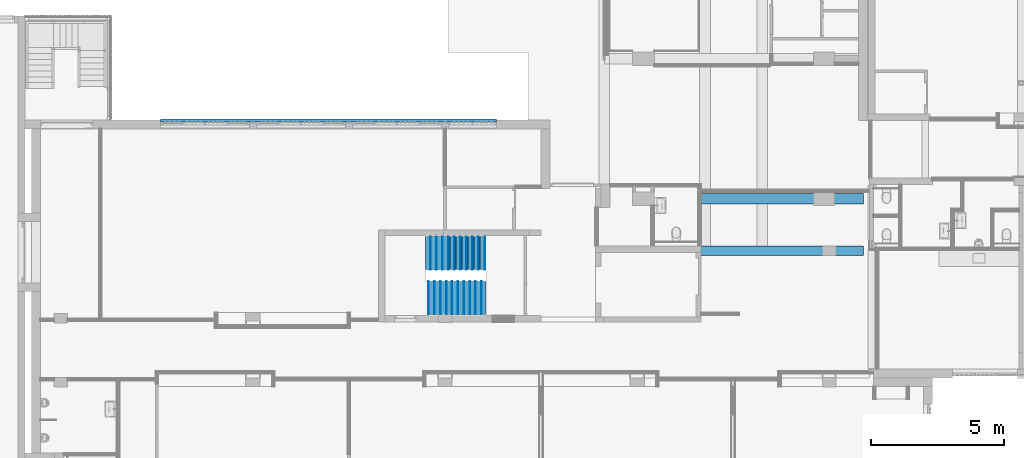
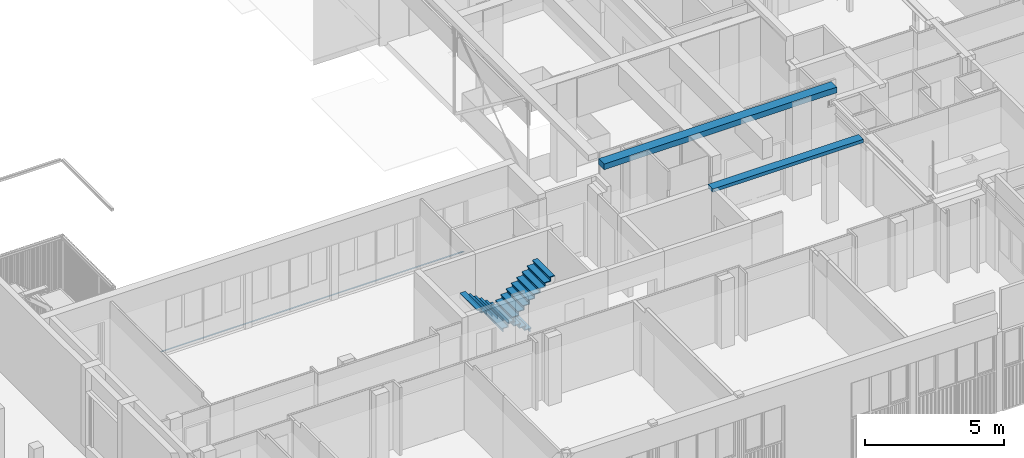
# One storey, part 21 of 117: 40 members, 3 beams, 2 elements without a shape of their own.
"""IFC2X3 building model written with IfcOpenShell, lengths in millimetres."""

from ifc_helpers import new_model, entity, si_unit, converted_unit, derived_unit, money_unit, direction, frame, origin_with_axes, place, context, subcontext, project, spatial, faceted_brep, material, type_object, element, aggregate, save


model = new_model("IFC2X3")

# Units and contexts
model_context = context("Model", 3, precision=0.01, world=origin_with_axes(), true_north=direction((0.0, 1.0)))
body_context = subcontext(model_context, "Body", "Model", "MODEL_VIEW")
ifc_project = project(units=[si_unit("LENGTHUNIT", "METRE", prefix="MILLI"), si_unit("AREAUNIT", "SQUARE_METRE"), si_unit("VOLUMEUNIT", "CUBIC_METRE"), converted_unit("PLANEANGLEUNIT", "DEGREE", entity("IfcPlaneAngleMeasure", 0.0174532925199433), si_unit("PLANEANGLEUNIT", "RADIAN"), dimensions=[0, 0, 0, 0, 0, 0, 0]), money_unit("EUR"), converted_unit("TIMEUNIT", "Year", entity("IfcTimeMeasure", 31557600.0), si_unit("TIMEUNIT", "SECOND"), dimensions=[0, 0, 1, 0, 0, 0, 0]), si_unit("MASSUNIT", "GRAM", prefix="KILO"), si_unit("THERMODYNAMICTEMPERATUREUNIT", "DEGREE_CELSIUS"), si_unit("LUMINOUSINTENSITYUNIT", "LUMEN"), si_unit("ENERGYUNIT", "JOULE", prefix="MEGA"), derived_unit("THERMALCONDUCTANCEUNIT", [(si_unit("POWERUNIT", "WATT"), 1), (si_unit("LENGTHUNIT", "METRE"), -1), (si_unit("THERMODYNAMICTEMPERATUREUNIT", "KELVIN"), -1)]), derived_unit("SPECIFICHEATCAPACITYUNIT", [(si_unit("ENERGYUNIT", "JOULE"), 1), (si_unit("MASSUNIT", "GRAM", prefix="KILO"), -1), (si_unit("THERMODYNAMICTEMPERATUREUNIT", "KELVIN"), -1)]), derived_unit("MASSDENSITYUNIT", [(si_unit("MASSUNIT", "GRAM", prefix="KILO"), 1), (si_unit("VOLUMEUNIT", "CUBIC_METRE"), -1)])], contexts=[model_context])

# Site, building, storey
site_placement = place(None, origin_with_axes())
site = spatial("IfcSite", under=ifc_project, at=site_placement, Name="Site", CompositionType="ELEMENT")
building_placement = place(site_placement, origin_with_axes())
building = spatial("IfcBuilding", under=site, at=building_placement, Name="Naam gebouw", CompositionType="ELEMENT")
storey_placement = place(building_placement, frame((0.0, 0.0, 4150.0), z_axis=(0.0, 0.0, 1.0), x_axis=(1.0, 0.0, 0.0)))
storey = spatial("IfcBuildingStorey", under=building, at=storey_placement, Name="1e verdieping N", CompositionType="ELEMENT", Elevation=4150.0)

# Beam
ifc_material_1 = material(Name="Metaal - Aluminium")
beam_type_1 = type_object("IfcBeamType", Name="Lekdorpel 107 x 49", PredefinedType="BEAM")
beam_1_placement = place(storey_placement, frame((16337.49963815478, 20325.90462384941, 0.0), z_axis=(0.0, 0.0, 1.0), x_axis=(-1.058470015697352e-07, 0.9999999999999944, 0.0)))
element("IfcBeam", 1, at=beam_1_placement, inside=storey, type_object=beam_type_1, material=ifc_material_1, Name="_Balk-x", ObjectType="BEAM", context=body_context, shape_type="Brep", body=[
    faceted_brep([(27.99999999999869, 0.0, -1.678199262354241), (27.99999999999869, 12599.99999993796, -1.678199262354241), (27.99999999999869, 12599.99999993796, -16.5358983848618), (27.99999999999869, 0.0, -16.5358983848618), (-76.99999999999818, 0.0, 16.83613371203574), (-76.99999999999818, 12599.99999993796, 16.83613371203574), (-76.99999999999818, 12599.99999993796, 28.51433297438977), (-74.99999999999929, 12599.99999993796, 28.51433297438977), (-74.99999999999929, 12599.99999993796, 18.51433297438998), (30.00000000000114, 12599.99999993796, 0.0), (30.00000000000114, 12599.99999993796, -19.99999999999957), (19.99999999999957, 12599.99999993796, -14.22649730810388), (19.99999999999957, 12599.99999993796, -11.91709623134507), (19.99999999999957, 0.0, -11.91709623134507), (19.99999999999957, 0.0, -14.22649730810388), (30.00000000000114, 0.0, -19.99999999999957), (30.00000000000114, 0.0, 0.0), (-74.99999999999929, 0.0, 18.51433297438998), (-74.99999999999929, 0.0, 28.51433297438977), (-76.99999999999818, 0.0, 28.51433297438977)], [[[0, 1, 2, 3]], [[4, 5, 1, 0]], [[2, 1, 5, 6, 7, 8, 9, 10, 11, 12]], [[3, 2, 12, 13]], [[4, 0, 3, 13, 14, 15, 16, 17, 18, 19]], [[19, 6, 5, 4]], [[18, 7, 6, 19]], [[17, 8, 7, 18]], [[16, 9, 8, 17]], [[15, 10, 9, 16]], [[14, 11, 10, 15]], [[13, 12, 11, 14]]]),
])

# Stair, members
stair_1_placement = place(storey_placement, frame((15940.50051848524, 14714.92025998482, 0.0), z_axis=(0.0, 0.0, 1.0), x_axis=(1.0, 0.0, 0.0)))
stair_1 = element("IfcStair", 2, at=stair_1_placement, inside=storey, Name="_Trap-x", ShapeType="NOTDEFINED")
ifc_material_2 = material(Name="Hout - Vloer")
member_type_1 = type_object("IfcMemberType", Name="IfcMember", PredefinedType="USERDEFINED")
member_1_placement = place(stair_1_placement, frame((0.0, 619.9999999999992, 174.9999999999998), z_axis=(0.0, 0.0, 1.0), x_axis=(0.0, 1.0, 0.0)))
member_1 = element("IfcMember", 3, at=member_1_placement, type_object=member_type_1, material=ifc_material_2, Name="_Traptrede-x", context=body_context, shape_type="Brep", body=[
    faceted_brep([(-620.0, 0.0, -38.0), (620.0, 0.0, -38.0), (620.0, 0.0, 0.0), (-620.0, 0.0, 0.0), (-620.0, 285.0000000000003, -38.0), (620.0, 285.000000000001, -38.0), (620.0, 285.000000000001, 0.0), (-620.0, 285.0000000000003, 0.0)], [[[0, 1, 2, 3]], [[0, 4, 5, 1]], [[1, 5, 6, 2]], [[3, 2, 6, 7]], [[4, 0, 3, 7]], [[5, 4, 7, 6]]]),
])
member_2_placement = place(stair_1_placement, frame((-227.0000000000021, 620.000000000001, 349.9999999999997), z_axis=(0.0, 0.0, 1.0), x_axis=(0.0, 1.0, 0.0)))
member_2 = element("IfcMember", 4, at=member_2_placement, type_object=member_type_1, material=ifc_material_2, Name="_Traptrede-x", context=body_context, shape_type="Brep", body=[
    faceted_brep([(-620.0, 0.0, -38.0), (620.0, 0.0, -38.0), (620.0, 0.0, 0.0), (-620.0, 0.0, 0.0), (-620.0, 285.0000000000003, -38.0), (620.0, 285.000000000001, -38.0), (620.0, 285.000000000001, 0.0), (-620.0, 285.0000000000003, 0.0)], [[[0, 1, 2, 3]], [[0, 4, 5, 1]], [[1, 5, 6, 2]], [[3, 2, 6, 7]], [[4, 0, 3, 7]], [[5, 4, 7, 6]]]),
])
member_3_placement = place(stair_1_placement, frame((-454.0000000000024, 620.000000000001, 525.0000000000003), z_axis=(0.0, 0.0, 1.0), x_axis=(0.0, 1.0, 0.0)))
member_3 = element("IfcMember", 5, at=member_3_placement, type_object=member_type_1, material=ifc_material_2, Name="_Traptrede-x", context=body_context, shape_type="Brep", body=[
    faceted_brep([(-620.0, 0.0, -38.0), (620.0, 0.0, -38.0), (620.0, 0.0, 0.0), (-620.0, 0.0, 0.0), (-620.0, 285.0000000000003, -38.0), (620.0, 285.000000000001, -38.0), (620.0, 285.000000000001, 0.0), (-620.0, 285.0000000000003, 0.0)], [[[0, 1, 2, 3]], [[0, 4, 5, 1]], [[1, 5, 6, 2]], [[3, 2, 6, 7]], [[4, 0, 3, 7]], [[5, 4, 7, 6]]]),
])
member_4_placement = place(stair_1_placement, frame((-681.0000000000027, 620.000000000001, 700.0000000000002), z_axis=(0.0, 0.0, 1.0), x_axis=(0.0, 1.0, 0.0)))
member_4 = element("IfcMember", 6, at=member_4_placement, type_object=member_type_1, material=ifc_material_2, Name="_Traptrede-x", context=body_context, shape_type="Brep", body=[
    faceted_brep([(-620.0, 0.0, -38.0), (620.0, 0.0, -38.0), (620.0, 0.0, 0.0), (-620.0, 0.0, 0.0), (-620.0, 285.0000000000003, -38.0), (620.0, 285.000000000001, -38.0), (620.0, 285.000000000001, 0.0), (-620.0, 285.0000000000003, 0.0)], [[[0, 1, 2, 3]], [[0, 4, 5, 1]], [[1, 5, 6, 2]], [[3, 2, 6, 7]], [[4, 0, 3, 7]], [[5, 4, 7, 6]]]),
])
member_5_placement = place(stair_1_placement, frame((-908.0000000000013, 620.000000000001, 875.0), z_axis=(0.0, 0.0, 1.0), x_axis=(0.0, 1.0, 0.0)))
member_5 = element("IfcMember", 7, at=member_5_placement, type_object=member_type_1, material=ifc_material_2, Name="_Traptrede-x", context=body_context, shape_type="Brep", body=[
    faceted_brep([(-620.0, 0.0, -38.0), (620.0, 0.0, -38.0), (620.0, 0.0, 0.0), (-620.0, 0.0, 0.0), (-620.0, 285.0000000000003, -38.0), (620.0, 285.000000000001, -38.0), (620.0, 285.000000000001, 0.0), (-620.0, 285.0000000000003, 0.0)], [[[0, 1, 2, 3]], [[0, 4, 5, 1]], [[1, 5, 6, 2]], [[3, 2, 6, 7]], [[4, 0, 3, 7]], [[5, 4, 7, 6]]]),
])
member_6_placement = place(stair_1_placement, frame((-1135.000000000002, 620.000000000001, 1050.0), z_axis=(0.0, 0.0, 1.0), x_axis=(0.0, 1.0, 0.0)))
member_6 = element("IfcMember", 8, at=member_6_placement, type_object=member_type_1, material=ifc_material_2, Name="_Traptrede-x", context=body_context, shape_type="Brep", body=[
    faceted_brep([(-620.0, 0.0, -38.0), (620.0, 0.0, -38.0), (620.0, 0.0, 0.0), (-620.0, 0.0, 0.0), (-620.0, 285.0000000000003, -38.0), (620.0, 285.000000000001, -38.0), (620.0, 285.000000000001, 0.0), (-620.0, 285.0000000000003, 0.0)], [[[0, 1, 2, 3]], [[0, 4, 5, 1]], [[1, 5, 6, 2]], [[3, 2, 6, 7]], [[4, 0, 3, 7]], [[5, 4, 7, 6]]]),
])
member_7_placement = place(stair_1_placement, frame((-1362.000000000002, 620.000000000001, 1225.0), z_axis=(0.0, 0.0, 1.0), x_axis=(0.0, 1.0, 0.0)))
member_7 = element("IfcMember", 9, at=member_7_placement, type_object=member_type_1, material=ifc_material_2, Name="_Traptrede-x", context=body_context, shape_type="Brep", body=[
    faceted_brep([(-620.0, 0.0, -38.0), (620.0, 0.0, -38.0), (620.0, 0.0, 0.0), (-620.0, 0.0, 0.0), (-620.0, 285.0000000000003, -38.0), (620.0, 285.000000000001, -38.0), (620.0, 285.000000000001, 0.0), (-620.0, 285.0000000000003, 0.0)], [[[0, 1, 2, 3]], [[0, 4, 5, 1]], [[1, 5, 6, 2]], [[3, 2, 6, 7]], [[4, 0, 3, 7]], [[5, 4, 7, 6]]]),
])
member_8_placement = place(stair_1_placement, frame((-1589.000000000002, 620.000000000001, 1400.0), z_axis=(0.0, 0.0, 1.0), x_axis=(0.0, 1.0, 0.0)))
member_8 = element("IfcMember", 10, at=member_8_placement, type_object=member_type_1, material=ifc_material_2, Name="_Traptrede-x", context=body_context, shape_type="Brep", body=[
    faceted_brep([(-620.0, 0.0, -38.0), (620.0, 0.0, -38.0), (620.0, 0.0, 0.0), (-620.0, 0.0, 0.0), (-620.0, 285.0000000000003, -38.0), (620.0, 285.000000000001, -38.0), (620.0, 285.000000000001, 0.0), (-620.0, 285.0000000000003, 0.0)], [[[0, 1, 2, 3]], [[0, 4, 5, 1]], [[1, 5, 6, 2]], [[3, 2, 6, 7]], [[4, 0, 3, 7]], [[5, 4, 7, 6]]]),
])
member_9_placement = place(stair_1_placement, frame((-1816.000000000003, 620.000000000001, 1575.0), z_axis=(0.0, 0.0, 1.0), x_axis=(0.0, 1.0, 0.0)))
member_9 = element("IfcMember", 11, at=member_9_placement, type_object=member_type_1, material=ifc_material_2, Name="_Traptrede-x", context=body_context, shape_type="Brep", body=[
    faceted_brep([(-620.0, 0.0, -38.0), (620.0, 0.0, -38.0), (620.0, 0.0, 0.0), (-620.0, 0.0, 0.0), (-620.0, 285.0000000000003, -38.0), (620.0, 285.000000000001, -38.0), (620.0, 285.000000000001, 0.0), (-620.0, 285.0000000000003, 0.0)], [[[0, 1, 2, 3]], [[0, 4, 5, 1]], [[1, 5, 6, 2]], [[3, 2, 6, 7]], [[4, 0, 3, 7]], [[5, 4, 7, 6]]]),
])
member_10_placement = place(stair_1_placement, frame((-2043.000000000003, 620.000000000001, 1750.0), z_axis=(0.0, 0.0, 1.0), x_axis=(0.0, 1.0, 0.0)))
member_10 = element("IfcMember", 12, at=member_10_placement, type_object=member_type_1, material=ifc_material_2, Name="_Traptrede-x", context=body_context, shape_type="Brep", body=[
    faceted_brep([(-620.0, 0.0, -38.0), (619.9999999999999, 0.0, -38.0), (619.9999999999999, 0.0, 0.0), (-620.0, 0.0, 0.0), (-620.0000000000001, 227.0000000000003, -38.0), (619.9999999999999, 227.0000000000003, -38.0), (619.9999999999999, 227.0000000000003, 0.0), (-620.0000000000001, 227.0000000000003, 0.0)], [[[0, 1, 2, 3]], [[0, 4, 5, 1]], [[1, 5, 6, 2]], [[3, 2, 6, 7]], [[4, 0, 3, 7]], [[5, 4, 7, 6]]]),
])

stair_2_placement = place(storey_placement, frame((13740.50051848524, 14274.60803964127, 1750.0), z_axis=(0.0, 0.0, 1.0), x_axis=(-1.0, 0.0, 0.0)))
stair_2 = element("IfcStair", 13, at=stair_2_placement, inside=storey, Name="_Trap-x", ShapeType="NOTDEFINED")
member_11_placement = place(stair_2_placement, frame((-220.0000000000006, 620.000000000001, 349.9999999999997), z_axis=(0.0, 0.0, 1.0), x_axis=(0.0, 1.0, 0.0)))
member_11 = element("IfcMember", 14, at=member_11_placement, type_object=member_type_1, material=ifc_material_2, Name="_Traptrede-x", context=body_context, shape_type="Brep", body=[
    faceted_brep([(-620.0, 0.0, -38.0), (620.0, 0.0, -38.0), (620.0, 0.0, 0.0), (-620.0, 0.0, 0.0), (-620.0, 278.0, -38.0), (620.0, 278.0000000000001, -38.0), (620.0, 278.0000000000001, 0.0), (-620.0, 278.0, 0.0)], [[[0, 1, 2, 3]], [[0, 4, 5, 1]], [[1, 5, 6, 2]], [[3, 2, 6, 7]], [[4, 0, 3, 7]], [[5, 4, 7, 6]]]),
])
member_12_placement = place(stair_2_placement, frame((-439.9999999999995, 620.000000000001, 525.0000000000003), z_axis=(0.0, 0.0, 1.0), x_axis=(0.0, 1.0, 0.0)))
member_12 = element("IfcMember", 15, at=member_12_placement, type_object=member_type_1, material=ifc_material_2, Name="_Traptrede-x", context=body_context, shape_type="Brep", body=[
    faceted_brep([(-620.0, 0.0, -38.0), (620.0, 0.0, -38.0), (620.0, 0.0, 0.0), (-620.0, 0.0, 0.0), (-620.0, 278.0, -38.0), (620.0, 278.0000000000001, -38.0), (620.0, 278.0000000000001, 0.0), (-620.0, 278.0, 0.0)], [[[0, 1, 2, 3]], [[0, 4, 5, 1]], [[1, 5, 6, 2]], [[3, 2, 6, 7]], [[4, 0, 3, 7]], [[5, 4, 7, 6]]]),
])
member_13_placement = place(stair_2_placement, frame((-660.0000000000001, 620.000000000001, 700.0000000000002), z_axis=(0.0, 0.0, 1.0), x_axis=(0.0, 1.0, 0.0)))
member_13 = element("IfcMember", 16, at=member_13_placement, type_object=member_type_1, material=ifc_material_2, Name="_Traptrede-x", context=body_context, shape_type="Brep", body=[
    faceted_brep([(-620.0, 0.0, -38.0), (620.0, 0.0, -38.0), (620.0, 0.0, 0.0), (-620.0, 0.0, 0.0), (-620.0, 278.0, -38.0), (620.0, 278.0000000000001, -38.0), (620.0, 278.0000000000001, 0.0), (-620.0, 278.0, 0.0)], [[[0, 1, 2, 3]], [[0, 4, 5, 1]], [[1, 5, 6, 2]], [[3, 2, 6, 7]], [[4, 0, 3, 7]], [[5, 4, 7, 6]]]),
])
member_14_placement = place(stair_2_placement, frame((-1100.0, 620.000000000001, 1050.0), z_axis=(0.0, 0.0, 1.0), x_axis=(0.0, 1.0, 0.0)))
member_14 = element("IfcMember", 17, at=member_14_placement, type_object=member_type_1, material=ifc_material_2, Name="_Traptrede-x", context=body_context, shape_type="Brep", body=[
    faceted_brep([(-620.0, 0.0, -38.0), (620.0, 0.0, -38.0), (620.0, 0.0, 0.0), (-620.0, 0.0, 0.0), (-620.0, 278.0, -38.0), (620.0, 278.0000000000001, -38.0), (620.0, 278.0000000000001, 0.0), (-620.0, 278.0, 0.0)], [[[0, 1, 2, 3]], [[0, 4, 5, 1]], [[1, 5, 6, 2]], [[3, 2, 6, 7]], [[4, 0, 3, 7]], [[5, 4, 7, 6]]]),
])
member_15_placement = place(stair_2_placement, frame((-1320.0, 620.000000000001, 1225.0), z_axis=(0.0, 0.0, 1.0), x_axis=(0.0, 1.0, 0.0)))
member_15 = element("IfcMember", 18, at=member_15_placement, type_object=member_type_1, material=ifc_material_2, Name="_Traptrede-x", context=body_context, shape_type="Brep", body=[
    faceted_brep([(-620.0, 0.0, -38.0), (620.0, 0.0, -38.0), (620.0, 0.0, 0.0), (-620.0, 0.0, 0.0), (-620.0, 278.0, -38.0), (620.0, 278.0000000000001, -38.0), (620.0, 278.0000000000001, 0.0), (-620.0, 278.0, 0.0)], [[[0, 1, 2, 3]], [[0, 4, 5, 1]], [[1, 5, 6, 2]], [[3, 2, 6, 7]], [[4, 0, 3, 7]], [[5, 4, 7, 6]]]),
])
member_16_placement = place(stair_2_placement, frame((-879.999999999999, 620.000000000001, 875.0), z_axis=(0.0, 0.0, 1.0), x_axis=(0.0, 1.0, 0.0)))
member_16 = element("IfcMember", 19, at=member_16_placement, type_object=member_type_1, material=ifc_material_2, Name="_Traptrede-x", context=body_context, shape_type="Brep", body=[
    faceted_brep([(-620.0, 0.0, -38.0), (620.0, 0.0, -38.0), (620.0, 0.0, 0.0), (-620.0, 0.0, 0.0), (-620.0, 278.0, -38.0), (620.0, 278.0000000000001, -38.0), (620.0, 278.0000000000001, 0.0), (-620.0, 278.0, 0.0)], [[[0, 1, 2, 3]], [[0, 4, 5, 1]], [[1, 5, 6, 2]], [[3, 2, 6, 7]], [[4, 0, 3, 7]], [[5, 4, 7, 6]]]),
])
member_17_placement = place(stair_2_placement, frame((-1760.0, 620.000000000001, 1575.0), z_axis=(0.0, 0.0, 1.0), x_axis=(0.0, 1.0, 0.0)))
member_17 = element("IfcMember", 20, at=member_17_placement, type_object=member_type_1, material=ifc_material_2, Name="_Traptrede-x", context=body_context, shape_type="Brep", body=[
    faceted_brep([(-620.0, 0.0, -38.0), (620.0, 0.0, -38.0), (620.0, 0.0, 0.0), (-620.0, 0.0, 0.0), (-620.0, 278.0, -38.0), (620.0, 278.0000000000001, -38.0), (620.0, 278.0000000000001, 0.0), (-620.0, 278.0, 0.0)], [[[0, 1, 2, 3]], [[0, 4, 5, 1]], [[1, 5, 6, 2]], [[3, 2, 6, 7]], [[4, 0, 3, 7]], [[5, 4, 7, 6]]]),
])
member_18_placement = place(stair_2_placement, frame((-1539.999999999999, 620.000000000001, 1400.0), z_axis=(0.0, 0.0, 1.0), x_axis=(0.0, 1.0, 0.0)))
member_18 = element("IfcMember", 21, at=member_18_placement, type_object=member_type_1, material=ifc_material_2, Name="_Traptrede-x", context=body_context, shape_type="Brep", body=[
    faceted_brep([(-620.0, 0.0, -38.0), (620.0, 0.0, -38.0), (620.0, 0.0, 0.0), (-620.0, 0.0, 0.0), (-620.0, 278.0, -38.0), (620.0, 278.0000000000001, -38.0), (620.0, 278.0000000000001, 0.0), (-620.0, 278.0, 0.0)], [[[0, 1, 2, 3]], [[0, 4, 5, 1]], [[1, 5, 6, 2]], [[3, 2, 6, 7]], [[4, 0, 3, 7]], [[5, 4, 7, 6]]]),
])
member_19_placement = place(stair_2_placement, frame((-1980.0, 620.000000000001, 1750.0), z_axis=(0.0, 0.0, 1.0), x_axis=(0.0, 1.0, 0.0)))
member_19 = element("IfcMember", 22, at=member_19_placement, type_object=member_type_1, material=ifc_material_2, Name="_Traptrede-x", context=body_context, shape_type="Brep", body=[
    faceted_brep([(-620.0, 0.0, -38.0), (620.0, 0.0, -38.0), (620.0, 0.0, 0.0), (-620.0, 0.0, 0.0), (-620.0, 220.0, -38.0), (620.0, 220.0, -38.0), (620.0, 220.0, 0.0), (-620.0, 220.0, 0.0)], [[[0, 1, 2, 3]], [[0, 4, 5, 1]], [[1, 5, 6, 2]], [[3, 2, 6, 7]], [[4, 0, 3, 7]], [[5, 4, 7, 6]]]),
])
member_20_placement = place(stair_2_placement, frame((0.0, 619.9999999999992, 174.9999999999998), z_axis=(0.0, 0.0, 1.0), x_axis=(0.0, 1.0, 0.0)))
member_20 = element("IfcMember", 23, at=member_20_placement, type_object=member_type_1, material=ifc_material_2, Name="_Traptrede-x", context=body_context, shape_type="Brep", body=[
    faceted_brep([(-620.0, 0.0, -38.0), (620.0, 0.0, -38.0), (620.0, 0.0, 0.0), (-620.0, 0.0, 0.0), (-620.0, 278.0, -38.0), (620.0, 278.0000000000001, -38.0), (620.0, 278.0000000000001, 0.0), (-620.0, 278.0, 0.0)], [[[0, 1, 2, 3]], [[0, 4, 5, 1]], [[1, 5, 6, 2]], [[3, 2, 6, 7]], [[4, 0, 3, 7]], [[5, 4, 7, 6]]]),
])

# Member
member_type_2 = type_object("IfcMemberType", Name="IfcMember", PredefinedType="USERDEFINED")
member_21_placement = place(stair_1_placement, frame((0.0, 619.9999999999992, 136.9999999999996), z_axis=(0.0, 0.0, 1.0), x_axis=(0.0, 1.0, 0.0)))
member_21 = element("IfcMember", 24, at=member_21_placement, type_object=member_type_2, material=ifc_material_2, Name="_Stootbord-x", context=body_context, shape_type="Brep", body=[
    faceted_brep([(620.0, 40.00000000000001, 0.0), (620.0, 58.00000000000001, 0.0), (-620.0, 57.99999999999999, 0.0), (-620.0, 40.0, 0.0), (620.0, 40.00000000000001, -137.0), (620.0, 58.00000000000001, -137.0), (-620.0, 58.00000000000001, -137.0), (-620.0, 40.00000000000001, -137.0)], [[[0, 1, 2, 3]], [[0, 4, 5, 1]], [[1, 5, 6, 2]], [[3, 2, 6, 7]], [[4, 0, 3, 7]], [[5, 4, 7, 6]]]),
])

member_22_placement = place(stair_1_placement, frame((-227.0000000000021, 620.000000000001, 312.0000000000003), z_axis=(0.0, 0.0, 1.0), x_axis=(0.0, 1.0, 0.0)))
member_22 = element("IfcMember", 25, at=member_22_placement, type_object=member_type_2, material=ifc_material_2, Name="_Stootbord-x", context=body_context, shape_type="Brep", body=[
    faceted_brep([(620.0, 40.00000000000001, 0.0), (620.0, 58.00000000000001, 0.0), (-620.0, 57.99999999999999, 0.0), (-620.0, 40.0, 0.0), (620.0, 40.00000000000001, -137.0), (620.0, 58.00000000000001, -137.0), (-620.0, 58.00000000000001, -137.0), (-620.0, 40.00000000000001, -137.0)], [[[0, 1, 2, 3]], [[0, 4, 5, 1]], [[1, 5, 6, 2]], [[3, 2, 6, 7]], [[4, 0, 3, 7]], [[5, 4, 7, 6]]]),
])

member_23_placement = place(stair_1_placement, frame((-454.0000000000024, 620.000000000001, 487.0000000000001), z_axis=(0.0, 0.0, 1.0), x_axis=(0.0, 1.0, 0.0)))
member_23 = element("IfcMember", 26, at=member_23_placement, type_object=member_type_2, material=ifc_material_2, Name="_Stootbord-x", context=body_context, shape_type="Brep", body=[
    faceted_brep([(620.0, 40.00000000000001, 0.0), (620.0, 58.00000000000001, 0.0), (-620.0, 57.99999999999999, 0.0), (-620.0, 40.0, 0.0), (620.0, 40.00000000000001, -137.0), (620.0, 58.00000000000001, -137.0), (-620.0, 58.00000000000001, -137.0), (-620.0, 40.00000000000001, -137.0)], [[[0, 1, 2, 3]], [[0, 4, 5, 1]], [[1, 5, 6, 2]], [[3, 2, 6, 7]], [[4, 0, 3, 7]], [[5, 4, 7, 6]]]),
])

member_24_placement = place(stair_1_placement, frame((-908.0000000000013, 620.000000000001, 836.9999999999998), z_axis=(0.0, 0.0, 1.0), x_axis=(0.0, 1.0, 0.0)))
member_24 = element("IfcMember", 27, at=member_24_placement, type_object=member_type_2, material=ifc_material_2, Name="_Stootbord-x", context=body_context, shape_type="Brep", body=[
    faceted_brep([(620.0, 40.00000000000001, 0.0), (620.0, 58.00000000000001, 0.0), (-620.0, 57.99999999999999, 0.0), (-620.0, 40.0, 0.0), (620.0, 40.00000000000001, -137.0), (620.0, 58.00000000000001, -137.0), (-620.0, 58.00000000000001, -137.0), (-620.0, 40.00000000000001, -137.0)], [[[0, 1, 2, 3]], [[0, 4, 5, 1]], [[1, 5, 6, 2]], [[3, 2, 6, 7]], [[4, 0, 3, 7]], [[5, 4, 7, 6]]]),
])

member_25_placement = place(stair_1_placement, frame((-681.0000000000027, 620.000000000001, 661.9999999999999), z_axis=(0.0, 0.0, 1.0), x_axis=(0.0, 1.0, 0.0)))
member_25 = element("IfcMember", 28, at=member_25_placement, type_object=member_type_2, material=ifc_material_2, Name="_Stootbord-x", context=body_context, shape_type="Brep", body=[
    faceted_brep([(620.0, 40.00000000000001, 0.0), (620.0, 58.00000000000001, 0.0), (-620.0, 57.99999999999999, 0.0), (-620.0, 40.0, 0.0), (620.0, 40.00000000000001, -137.0), (620.0, 58.00000000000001, -137.0), (-620.0, 58.00000000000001, -137.0), (-620.0, 40.00000000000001, -137.0)], [[[0, 1, 2, 3]], [[0, 4, 5, 1]], [[1, 5, 6, 2]], [[3, 2, 6, 7]], [[4, 0, 3, 7]], [[5, 4, 7, 6]]]),
])

member_26_placement = place(stair_1_placement, frame((-1135.000000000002, 620.000000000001, 1012.0), z_axis=(0.0, 0.0, 1.0), x_axis=(0.0, 1.0, 0.0)))
member_26 = element("IfcMember", 29, at=member_26_placement, type_object=member_type_2, material=ifc_material_2, Name="_Stootbord-x", context=body_context, shape_type="Brep", body=[
    faceted_brep([(620.0, 40.00000000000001, 0.0), (620.0, 58.00000000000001, 0.0), (-620.0, 57.99999999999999, 0.0), (-620.0, 40.0, 0.0), (620.0, 40.00000000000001, -137.0), (620.0, 58.00000000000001, -137.0), (-620.0, 58.00000000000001, -137.0), (-620.0, 40.00000000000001, -137.0)], [[[0, 1, 2, 3]], [[0, 4, 5, 1]], [[1, 5, 6, 2]], [[3, 2, 6, 7]], [[4, 0, 3, 7]], [[5, 4, 7, 6]]]),
])

member_27_placement = place(stair_1_placement, frame((-1362.000000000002, 620.000000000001, 1186.999999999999), z_axis=(0.0, 0.0, 1.0), x_axis=(0.0, 1.0, 0.0)))
member_27 = element("IfcMember", 30, at=member_27_placement, type_object=member_type_2, material=ifc_material_2, Name="_Stootbord-x", context=body_context, shape_type="Brep", body=[
    faceted_brep([(620.0, 40.00000000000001, 0.0), (620.0, 58.00000000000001, 0.0), (-620.0, 57.99999999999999, 0.0), (-620.0, 40.0, 0.0), (620.0, 40.00000000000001, -137.0), (620.0, 58.00000000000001, -137.0), (-620.0, 58.00000000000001, -137.0), (-620.0, 40.00000000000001, -137.0)], [[[0, 1, 2, 3]], [[0, 4, 5, 1]], [[1, 5, 6, 2]], [[3, 2, 6, 7]], [[4, 0, 3, 7]], [[5, 4, 7, 6]]]),
])

member_28_placement = place(stair_1_placement, frame((-1589.000000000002, 620.000000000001, 1362.0), z_axis=(0.0, 0.0, 1.0), x_axis=(0.0, 1.0, 0.0)))
member_28 = element("IfcMember", 31, at=member_28_placement, type_object=member_type_2, material=ifc_material_2, Name="_Stootbord-x", context=body_context, shape_type="Brep", body=[
    faceted_brep([(620.0, 40.00000000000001, 0.0), (620.0, 58.00000000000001, 0.0), (-620.0, 57.99999999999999, 0.0), (-620.0, 40.0, 0.0), (620.0, 40.00000000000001, -137.0), (620.0, 58.00000000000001, -137.0), (-620.0, 58.00000000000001, -137.0), (-620.0, 40.00000000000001, -137.0)], [[[0, 1, 2, 3]], [[0, 4, 5, 1]], [[1, 5, 6, 2]], [[3, 2, 6, 7]], [[4, 0, 3, 7]], [[5, 4, 7, 6]]]),
])

member_29_placement = place(stair_1_placement, frame((-2043.000000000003, 620.000000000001, 1712.0), z_axis=(0.0, 0.0, 1.0), x_axis=(0.0, 1.0, 0.0)))
member_29 = element("IfcMember", 32, at=member_29_placement, type_object=member_type_2, material=ifc_material_2, Name="_Stootbord-x", context=body_context, shape_type="Brep", body=[
    faceted_brep([(620.0, 40.00000000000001, 0.0), (620.0, 58.00000000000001, 0.0), (-620.0, 57.99999999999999, 0.0), (-620.0, 40.0, 0.0), (620.0, 40.00000000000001, -137.0), (620.0, 58.00000000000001, -137.0), (-620.0, 58.00000000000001, -137.0), (-620.0, 40.00000000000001, -137.0)], [[[0, 1, 2, 3]], [[0, 4, 5, 1]], [[1, 5, 6, 2]], [[3, 2, 6, 7]], [[4, 0, 3, 7]], [[5, 4, 7, 6]]]),
])

member_30_placement = place(stair_1_placement, frame((-1816.000000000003, 620.000000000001, 1537.0), z_axis=(0.0, 0.0, 1.0), x_axis=(0.0, 1.0, 0.0)))
member_30 = element("IfcMember", 33, at=member_30_placement, type_object=member_type_2, material=ifc_material_2, Name="_Stootbord-x", context=body_context, shape_type="Brep", body=[
    faceted_brep([(620.0, 40.00000000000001, 0.0), (620.0, 58.00000000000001, 0.0), (-620.0, 57.99999999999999, 0.0), (-620.0, 40.0, 0.0), (620.0, 40.00000000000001, -137.0), (620.0, 58.00000000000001, -137.0), (-620.0, 58.00000000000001, -137.0), (-620.0, 40.00000000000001, -137.0)], [[[0, 1, 2, 3]], [[0, 4, 5, 1]], [[1, 5, 6, 2]], [[3, 2, 6, 7]], [[4, 0, 3, 7]], [[5, 4, 7, 6]]]),
])

aggregate(stair_1, [member_21, member_22, member_23, member_24, member_25, member_26, member_27, member_28, member_29, member_1, member_2, member_30, member_3, member_4, member_5, member_6, member_7, member_8, member_9, member_10])

member_31_placement = place(stair_2_placement, frame((0.0, 619.9999999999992, 136.9999999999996), z_axis=(0.0, 0.0, 1.0), x_axis=(0.0, 1.0, 0.0)))
member_31 = element("IfcMember", 34, at=member_31_placement, type_object=member_type_2, material=ifc_material_2, Name="_Stootbord-x", context=body_context, shape_type="Brep", body=[
    faceted_brep([(620.0, 40.00000000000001, 0.0), (620.0, 58.00000000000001, 0.0), (-620.0, 57.99999999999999, 0.0), (-620.0, 40.0, 0.0), (620.0, 40.00000000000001, -137.0), (620.0, 58.00000000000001, -137.0), (-620.0, 58.00000000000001, -137.0), (-620.0, 40.00000000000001, -137.0)], [[[0, 1, 2, 3]], [[0, 4, 5, 1]], [[1, 5, 6, 2]], [[3, 2, 6, 7]], [[4, 0, 3, 7]], [[5, 4, 7, 6]]]),
])

member_32_placement = place(stair_2_placement, frame((-220.0000000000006, 620.000000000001, 312.0000000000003), z_axis=(0.0, 0.0, 1.0), x_axis=(0.0, 1.0, 0.0)))
member_32 = element("IfcMember", 35, at=member_32_placement, type_object=member_type_2, material=ifc_material_2, Name="_Stootbord-x", context=body_context, shape_type="Brep", body=[
    faceted_brep([(620.0, 40.00000000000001, 0.0), (620.0, 58.00000000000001, 0.0), (-620.0, 57.99999999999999, 0.0), (-620.0, 40.0, 0.0), (620.0, 40.00000000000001, -137.0), (620.0, 58.00000000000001, -137.0), (-620.0, 58.00000000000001, -137.0), (-620.0, 40.00000000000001, -137.0)], [[[0, 1, 2, 3]], [[0, 4, 5, 1]], [[1, 5, 6, 2]], [[3, 2, 6, 7]], [[4, 0, 3, 7]], [[5, 4, 7, 6]]]),
])

member_33_placement = place(stair_2_placement, frame((-439.9999999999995, 620.000000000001, 487.0000000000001), z_axis=(0.0, 0.0, 1.0), x_axis=(0.0, 1.0, 0.0)))
member_33 = element("IfcMember", 36, at=member_33_placement, type_object=member_type_2, material=ifc_material_2, Name="_Stootbord-x", context=body_context, shape_type="Brep", body=[
    faceted_brep([(620.0, 40.00000000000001, 0.0), (620.0, 58.00000000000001, 0.0), (-620.0, 57.99999999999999, 0.0), (-620.0, 40.0, 0.0), (620.0, 40.00000000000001, -137.0), (620.0, 58.00000000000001, -137.0), (-620.0, 58.00000000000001, -137.0), (-620.0, 40.00000000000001, -137.0)], [[[0, 1, 2, 3]], [[0, 4, 5, 1]], [[1, 5, 6, 2]], [[3, 2, 6, 7]], [[4, 0, 3, 7]], [[5, 4, 7, 6]]]),
])

member_34_placement = place(stair_2_placement, frame((-660.0000000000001, 620.000000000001, 661.9999999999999), z_axis=(0.0, 0.0, 1.0), x_axis=(0.0, 1.0, 0.0)))
member_34 = element("IfcMember", 37, at=member_34_placement, type_object=member_type_2, material=ifc_material_2, Name="_Stootbord-x", context=body_context, shape_type="Brep", body=[
    faceted_brep([(620.0, 40.00000000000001, 0.0), (620.0, 58.00000000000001, 0.0), (-620.0, 57.99999999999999, 0.0), (-620.0, 40.0, 0.0), (620.0, 40.00000000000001, -137.0), (620.0, 58.00000000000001, -137.0), (-620.0, 58.00000000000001, -137.0), (-620.0, 40.00000000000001, -137.0)], [[[0, 1, 2, 3]], [[0, 4, 5, 1]], [[1, 5, 6, 2]], [[3, 2, 6, 7]], [[4, 0, 3, 7]], [[5, 4, 7, 6]]]),
])

member_35_placement = place(stair_2_placement, frame((-1100.0, 620.000000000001, 1012.0), z_axis=(0.0, 0.0, 1.0), x_axis=(0.0, 1.0, 0.0)))
member_35 = element("IfcMember", 38, at=member_35_placement, type_object=member_type_2, material=ifc_material_2, Name="_Stootbord-x", context=body_context, shape_type="Brep", body=[
    faceted_brep([(620.0, 40.00000000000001, 0.0), (620.0, 58.00000000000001, 0.0), (-620.0, 57.99999999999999, 0.0), (-620.0, 40.0, 0.0), (620.0, 40.00000000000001, -137.0), (620.0, 58.00000000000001, -137.0), (-620.0, 58.00000000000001, -137.0), (-620.0, 40.00000000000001, -137.0)], [[[0, 1, 2, 3]], [[0, 4, 5, 1]], [[1, 5, 6, 2]], [[3, 2, 6, 7]], [[4, 0, 3, 7]], [[5, 4, 7, 6]]]),
])

member_36_placement = place(stair_2_placement, frame((-879.999999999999, 620.000000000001, 836.9999999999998), z_axis=(0.0, 0.0, 1.0), x_axis=(0.0, 1.0, 0.0)))
member_36 = element("IfcMember", 39, at=member_36_placement, type_object=member_type_2, material=ifc_material_2, Name="_Stootbord-x", context=body_context, shape_type="Brep", body=[
    faceted_brep([(620.0, 40.00000000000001, 0.0), (620.0, 58.00000000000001, 0.0), (-620.0, 57.99999999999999, 0.0), (-620.0, 40.0, 0.0), (620.0, 40.00000000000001, -137.0), (620.0, 58.00000000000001, -137.0), (-620.0, 58.00000000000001, -137.0), (-620.0, 40.00000000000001, -137.0)], [[[0, 1, 2, 3]], [[0, 4, 5, 1]], [[1, 5, 6, 2]], [[3, 2, 6, 7]], [[4, 0, 3, 7]], [[5, 4, 7, 6]]]),
])

member_37_placement = place(stair_2_placement, frame((-1320.0, 620.000000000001, 1186.999999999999), z_axis=(0.0, 0.0, 1.0), x_axis=(0.0, 1.0, 0.0)))
member_37 = element("IfcMember", 40, at=member_37_placement, type_object=member_type_2, material=ifc_material_2, Name="_Stootbord-x", context=body_context, shape_type="Brep", body=[
    faceted_brep([(620.0, 40.00000000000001, 0.0), (620.0, 58.00000000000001, 0.0), (-620.0, 57.99999999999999, 0.0), (-620.0, 40.0, 0.0), (620.0, 40.00000000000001, -137.0), (620.0, 58.00000000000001, -137.0), (-620.0, 58.00000000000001, -137.0), (-620.0, 40.00000000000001, -137.0)], [[[0, 1, 2, 3]], [[0, 4, 5, 1]], [[1, 5, 6, 2]], [[3, 2, 6, 7]], [[4, 0, 3, 7]], [[5, 4, 7, 6]]]),
])

member_38_placement = place(stair_2_placement, frame((-1539.999999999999, 620.000000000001, 1362.0), z_axis=(0.0, 0.0, 1.0), x_axis=(0.0, 1.0, 0.0)))
member_38 = element("IfcMember", 41, at=member_38_placement, type_object=member_type_2, material=ifc_material_2, Name="_Stootbord-x", context=body_context, shape_type="Brep", body=[
    faceted_brep([(620.0, 40.00000000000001, 0.0), (620.0, 58.00000000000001, 0.0), (-620.0, 57.99999999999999, 0.0), (-620.0, 40.0, 0.0), (620.0, 40.00000000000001, -137.0), (620.0, 58.00000000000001, -137.0), (-620.0, 58.00000000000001, -137.0), (-620.0, 40.00000000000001, -137.0)], [[[0, 1, 2, 3]], [[0, 4, 5, 1]], [[1, 5, 6, 2]], [[3, 2, 6, 7]], [[4, 0, 3, 7]], [[5, 4, 7, 6]]]),
])

member_39_placement = place(stair_2_placement, frame((-1760.0, 620.000000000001, 1537.0), z_axis=(0.0, 0.0, 1.0), x_axis=(0.0, 1.0, 0.0)))
member_39 = element("IfcMember", 42, at=member_39_placement, type_object=member_type_2, material=ifc_material_2, Name="_Stootbord-x", context=body_context, shape_type="Brep", body=[
    faceted_brep([(620.0, 40.00000000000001, 0.0), (620.0, 58.00000000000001, 0.0), (-620.0, 57.99999999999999, 0.0), (-620.0, 40.0, 0.0), (620.0, 40.00000000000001, -137.0), (620.0, 58.00000000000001, -137.0), (-620.0, 58.00000000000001, -137.0), (-620.0, 40.00000000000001, -137.0)], [[[0, 1, 2, 3]], [[0, 4, 5, 1]], [[1, 5, 6, 2]], [[3, 2, 6, 7]], [[4, 0, 3, 7]], [[5, 4, 7, 6]]]),
])

member_40_placement = place(stair_2_placement, frame((-1980.0, 620.000000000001, 1712.0), z_axis=(0.0, 0.0, 1.0), x_axis=(0.0, 1.0, 0.0)))
member_40 = element("IfcMember", 43, at=member_40_placement, type_object=member_type_2, material=ifc_material_2, Name="_Stootbord-x", context=body_context, shape_type="Brep", body=[
    faceted_brep([(620.0, 40.00000000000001, 0.0), (620.0, 58.00000000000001, 0.0), (-620.0, 57.99999999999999, 0.0), (-620.0, 40.0, 0.0), (620.0, 40.00000000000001, -137.0), (620.0, 58.00000000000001, -137.0), (-620.0, 58.00000000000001, -137.0), (-620.0, 40.00000000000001, -137.0)], [[[0, 1, 2, 3]], [[0, 4, 5, 1]], [[1, 5, 6, 2]], [[3, 2, 6, 7]], [[4, 0, 3, 7]], [[5, 4, 7, 6]]]),
])

aggregate(stair_2, [member_31, member_32, member_33, member_34, member_35, member_36, member_37, member_38, member_39, member_40, member_11, member_12, member_13, member_14, member_15, member_16, member_17, member_18, member_19, member_20])

# Beams
ifc_material_3 = material(Name="ALG - CONSTRUCTIEF KOLOM")
beam_type_2 = type_object("IfcBeamType", Name="ALG - CONSTRUCTIEF KOLOM 400 x 250", PredefinedType="BEAM")
beam_2_placement = place(storey_placement, frame((20386.0, 17365.91242510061, 4340.0), z_axis=(0.0, 0.0, 1.0), x_axis=(0.0, -1.0, 0.0)))
element("IfcBeam", 44, at=beam_2_placement, inside=storey, type_object=beam_type_2, material=ifc_material_3, Name="_Balk-x", ObjectType="BEAM", context=body_context, shape_type="Brep", body=[
    faceted_brep([(199.9999999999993, 0.0, -250.0000000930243), (-199.9999999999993, 0.0, -250.0000000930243), (-199.9999999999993, 9700.0, -250.0000000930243), (199.9999999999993, 9700.0, -250.0000000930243), (199.9999999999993, 0.0, 0.0), (-199.9999999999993, 0.0, 0.0), (-199.9999999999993, 9700.0, 0.0), (199.9999999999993, 9700.0, 0.0)], [[[0, 1, 2, 3]], [[4, 5, 1, 0]], [[1, 5, 6, 2]], [[7, 3, 2, 6]], [[4, 0, 3, 7]], [[5, 4, 7, 6]]]),
])
beam_type_3 = type_object("IfcBeamType", Name="ALG - CONSTRUCTIEF KOLOM 355 x 250", PredefinedType="BEAM")
beam_3_placement = place(storey_placement, frame((23802.99999999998, 15430.91242510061, 3300.0), z_axis=(0.0, 0.0, 1.0), x_axis=(0.0, -1.0, 0.0)))
element("IfcBeam", 45, at=beam_3_placement, inside=storey, type_object=beam_type_3, material=ifc_material_3, Name="_Balk-x", ObjectType="BEAM", context=body_context, shape_type="Brep", body=[
    faceted_brep([(-177.5000000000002, 0.0, -250.0000000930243), (-177.5000000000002, 0.0, -99.99999999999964), (-177.5000000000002, 6283.000000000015, -99.99999999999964), (-177.5000000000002, 6283.000000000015, -250.0000000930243), (177.5000000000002, 0.0, -250.0000000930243), (177.5000000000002, 0.0, -99.99999999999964), (177.5000000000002, 6283.000000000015, -99.99999999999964), (177.5000000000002, 6283.000000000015, -250.0000000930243)], [[[0, 1, 2, 3]], [[4, 5, 1, 0]], [[5, 6, 2, 1]], [[3, 2, 6, 7]], [[4, 0, 3, 7]], [[7, 6, 5, 4]]]),
])

save(model, "model.ifc")
